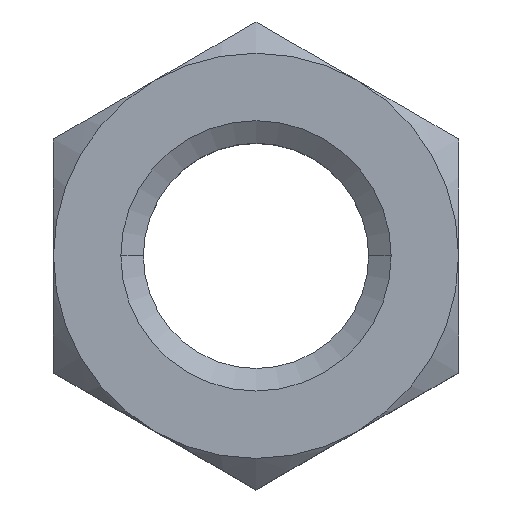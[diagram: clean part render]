
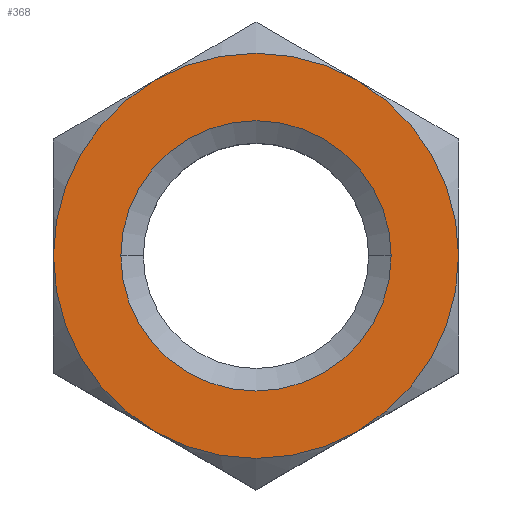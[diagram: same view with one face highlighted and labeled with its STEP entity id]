
A CAD part, top view. The second image highlights one B-rep face of the part: STEP entity #368.
In plain terms, the highlighted planar face has unit normal (0, 0, 1).
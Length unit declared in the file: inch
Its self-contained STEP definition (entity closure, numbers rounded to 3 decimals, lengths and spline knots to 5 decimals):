
#24 = CIRCLE ( 'NONE', #79, 0.1875 ) ;
#34 = AXIS2_PLACEMENT_3D ( 'NONE', #406, #518, #295 ) ;
#65 = CIRCLE ( 'NONE', #590, 0.281 ) ;
#72 = CIRCLE ( 'NONE', #34, 0.281 ) ;
#79 = AXIS2_PLACEMENT_3D ( 'NONE', #391, #329, #847 ) ;
#89 = AXIS2_PLACEMENT_3D ( 'NONE', #612, #393, #272 ) ;
#118 = DIRECTION ( 'NONE',  ( 1., 0., 0. ) ) ;
#129 = CARTESIAN_POINT ( 'NONE',  ( -0.1405, -0.24335, 0. ) ) ;
#136 = CARTESIAN_POINT ( 'NONE',  ( 0., 0., 0. ) ) ;
#139 = CARTESIAN_POINT ( 'NONE',  ( 0., 0., 0. ) ) ;
#140 = AXIS2_PLACEMENT_3D ( 'NONE', #665, #591, #412 ) ;
#177 = CARTESIAN_POINT ( 'NONE',  ( -0.281, 0., 0. ) ) ;
#181 = CIRCLE ( 'NONE', #89, 0.1875 ) ;
#186 = AXIS2_PLACEMENT_3D ( 'NONE', #139, #414, #204 ) ;
#191 = VERTEX_POINT ( 'NONE', #177 ) ;
#194 = AXIS2_PLACEMENT_3D ( 'NONE', #136, #726, #455 ) ;
#202 = CARTESIAN_POINT ( 'NONE',  ( -0.562, 0., 0. ) ) ;
#204 = DIRECTION ( 'NONE',  ( 1., 0., 0. ) ) ;
#219 = ORIENTED_EDGE ( 'NONE', *, *, #636, .T. ) ;
#232 = ORIENTED_EDGE ( 'NONE', *, *, #302, .F. ) ;
#233 = CIRCLE ( 'NONE', #186, 0.281 ) ;
#266 = CARTESIAN_POINT ( 'NONE',  ( 0., 0., 0. ) ) ;
#268 = AXIS2_PLACEMENT_3D ( 'NONE', #202, #808, #400 ) ;
#272 = DIRECTION ( 'NONE',  ( 1., 0., 0. ) ) ;
#277 = ORIENTED_EDGE ( 'NONE', *, *, #699, .T. ) ;
#295 = DIRECTION ( 'NONE',  ( 1., 0., 0. ) ) ;
#302 = EDGE_CURVE ( 'NONE', #630, #493, #181, .T. ) ;
#318 = VERTEX_POINT ( 'NONE', #749 ) ;
#329 = DIRECTION ( 'NONE',  ( 0., 0., 1. ) ) ;
#363 = VERTEX_POINT ( 'NONE', #832 ) ;
#368 = ADVANCED_FACE ( 'NONE', ( #788, #424 ), #616, .T. ) ;
#384 = CARTESIAN_POINT ( 'NONE',  ( 0.1405, 0.24335, 0. ) ) ;
#385 = EDGE_LOOP ( 'NONE', ( #219, #277, #547, #438, #646, #797 ) ) ;
#391 = CARTESIAN_POINT ( 'NONE',  ( 0., 0., 0. ) ) ;
#393 = DIRECTION ( 'NONE',  ( 0., 0., 1. ) ) ;
#400 = DIRECTION ( 'NONE',  ( 1., 0., 0. ) ) ;
#404 = EDGE_CURVE ( 'NONE', #504, #363, #72, .T. ) ;
#406 = CARTESIAN_POINT ( 'NONE',  ( 0., 0., 0. ) ) ;
#412 = DIRECTION ( 'NONE',  ( 1., 0., 0. ) ) ;
#414 = DIRECTION ( 'NONE',  ( 0., 0., 1. ) ) ;
#424 = FACE_BOUND ( 'NONE', #724, .T. ) ;
#438 = ORIENTED_EDGE ( 'NONE', *, *, #751, .T. ) ;
#444 = DIRECTION ( 'NONE',  ( 0., 0., 1. ) ) ;
#455 = DIRECTION ( 'NONE',  ( 1., 0., 0. ) ) ;
#462 = DIRECTION ( 'NONE',  ( 0., 0., 1. ) ) ;
#474 = CARTESIAN_POINT ( 'NONE',  ( 0.281, 0., 0. ) ) ;
#493 = VERTEX_POINT ( 'NONE', #895 ) ;
#504 = VERTEX_POINT ( 'NONE', #384 ) ;
#518 = DIRECTION ( 'NONE',  ( 0., 0., 1. ) ) ;
#529 = VERTEX_POINT ( 'NONE', #474 ) ;
#541 = CARTESIAN_POINT ( 'NONE',  ( 0.1875, 0., 0. ) ) ;
#547 = ORIENTED_EDGE ( 'NONE', *, *, #404, .T. ) ;
#554 = CIRCLE ( 'NONE', #754, 0.281 ) ;
#590 = AXIS2_PLACEMENT_3D ( 'NONE', #718, #444, #118 ) ;
#591 = DIRECTION ( 'NONE',  ( 0., 0., 1. ) ) ;
#602 = EDGE_CURVE ( 'NONE', #768, #318, #65, .T. ) ;
#610 = CIRCLE ( 'NONE', #194, 0.281 ) ;
#611 = EDGE_CURVE ( 'NONE', #191, #768, #610, .T. ) ;
#612 = CARTESIAN_POINT ( 'NONE',  ( 0., 0., 0. ) ) ;
#616 = PLANE ( 'NONE',  #268 ) ;
#626 = DIRECTION ( 'NONE',  ( 1., 0., 0. ) ) ;
#630 = VERTEX_POINT ( 'NONE', #541 ) ;
#636 = EDGE_CURVE ( 'NONE', #318, #529, #233, .T. ) ;
#646 = ORIENTED_EDGE ( 'NONE', *, *, #611, .T. ) ;
#665 = CARTESIAN_POINT ( 'NONE',  ( 0., 0., 0. ) ) ;
#699 = EDGE_CURVE ( 'NONE', #529, #504, #554, .T. ) ;
#718 = CARTESIAN_POINT ( 'NONE',  ( 0., 0., 0. ) ) ;
#724 = EDGE_LOOP ( 'NONE', ( #232, #848 ) ) ;
#726 = DIRECTION ( 'NONE',  ( 0., 0., 1. ) ) ;
#749 = CARTESIAN_POINT ( 'NONE',  ( 0.1405, -0.24335, 0. ) ) ;
#751 = EDGE_CURVE ( 'NONE', #363, #191, #759, .T. ) ;
#754 = AXIS2_PLACEMENT_3D ( 'NONE', #266, #462, #626 ) ;
#759 = CIRCLE ( 'NONE', #140, 0.281 ) ;
#768 = VERTEX_POINT ( 'NONE', #129 ) ;
#788 = FACE_OUTER_BOUND ( 'NONE', #385, .T. ) ;
#797 = ORIENTED_EDGE ( 'NONE', *, *, #602, .T. ) ;
#803 = EDGE_CURVE ( 'NONE', #493, #630, #24, .T. ) ;
#808 = DIRECTION ( 'NONE',  ( 0., 0., 1. ) ) ;
#832 = CARTESIAN_POINT ( 'NONE',  ( -0.1405, 0.24335, 0. ) ) ;
#847 = DIRECTION ( 'NONE',  ( 1., 0., 0. ) ) ;
#848 = ORIENTED_EDGE ( 'NONE', *, *, #803, .F. ) ;
#895 = CARTESIAN_POINT ( 'NONE',  ( -0.1875, 0., 0. ) ) ;
